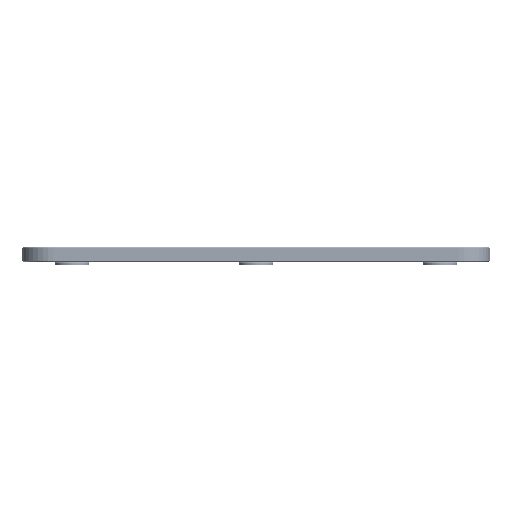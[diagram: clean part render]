
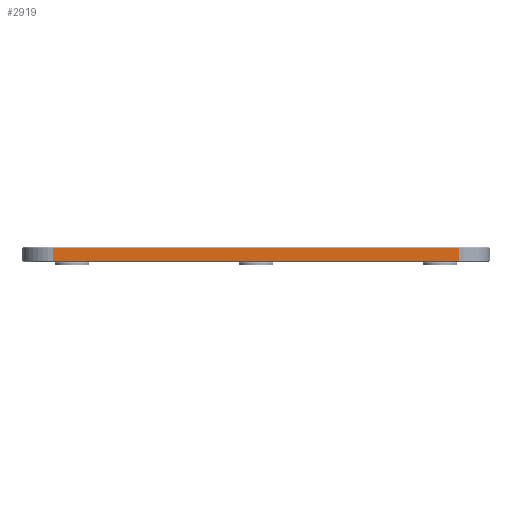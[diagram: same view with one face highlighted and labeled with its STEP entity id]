
A CAD part, front view. The second image highlights one B-rep face of the part: STEP entity #2919.
In plain terms, the highlighted planar face has unit normal (0, -1, 0).
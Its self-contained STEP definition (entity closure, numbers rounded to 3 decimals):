
#1083=FACE_OUTER_BOUND('',#9403,.T.);
#1218=LINE('',#44207,#1367);
#1219=LINE('',#44210,#1368);
#1220=LINE('',#44212,#1369);
#1221=LINE('',#44214,#1370);
#1367=VECTOR('',#30792,1.);
#1368=VECTOR('',#30793,1.);
#1369=VECTOR('',#30794,1.);
#1370=VECTOR('',#30795,1.);
#2676=PLANE('',#26548);
#2919=ADVANCED_FACE('',(#1083),#2676,.F.);
#9403=EDGE_LOOP('',(#15045,#15046,#15047,#15048));
#15045=ORIENTED_EDGE('',*,*,#22597,.T.);
#15046=ORIENTED_EDGE('',*,*,#22598,.T.);
#15047=ORIENTED_EDGE('',*,*,#22599,.T.);
#15048=ORIENTED_EDGE('',*,*,#22600,.T.);
#19751=VERTEX_POINT('',#44208);
#19752=VERTEX_POINT('',#44209);
#19753=VERTEX_POINT('',#44211);
#19754=VERTEX_POINT('',#44213);
#22597=EDGE_CURVE('',#19751,#19752,#1218,.T.);
#22598=EDGE_CURVE('',#19752,#19753,#1219,.T.);
#22599=EDGE_CURVE('',#19753,#19754,#1220,.T.);
#22600=EDGE_CURVE('',#19754,#19751,#1221,.T.);
#26548=AXIS2_PLACEMENT_3D('',#44215,#30796,#30797);
#30792=DIRECTION('',(0.,0.,-1.));
#30793=DIRECTION('',(1.,0.,0.));
#30794=DIRECTION('',(0.,0.,1.));
#30795=DIRECTION('',(-1.,0.,0.));
#30796=DIRECTION('',(0.,1.,0.));
#30797=DIRECTION('',(0.,0.,1.));
#44207=CARTESIAN_POINT('',(-130.,-150.,0.));
#44208=CARTESIAN_POINT('',(-130.,-150.,-1.));
#44209=CARTESIAN_POINT('',(-130.,-150.,-9.));
#44210=CARTESIAN_POINT('',(-150.,-150.,-9.));
#44211=CARTESIAN_POINT('',(130.,-150.,-9.));
#44212=CARTESIAN_POINT('',(130.,-150.,0.));
#44213=CARTESIAN_POINT('',(130.,-150.,-1.));
#44214=CARTESIAN_POINT('',(-130.,-150.,-1.));
#44215=CARTESIAN_POINT('',(-150.,-150.,0.));
